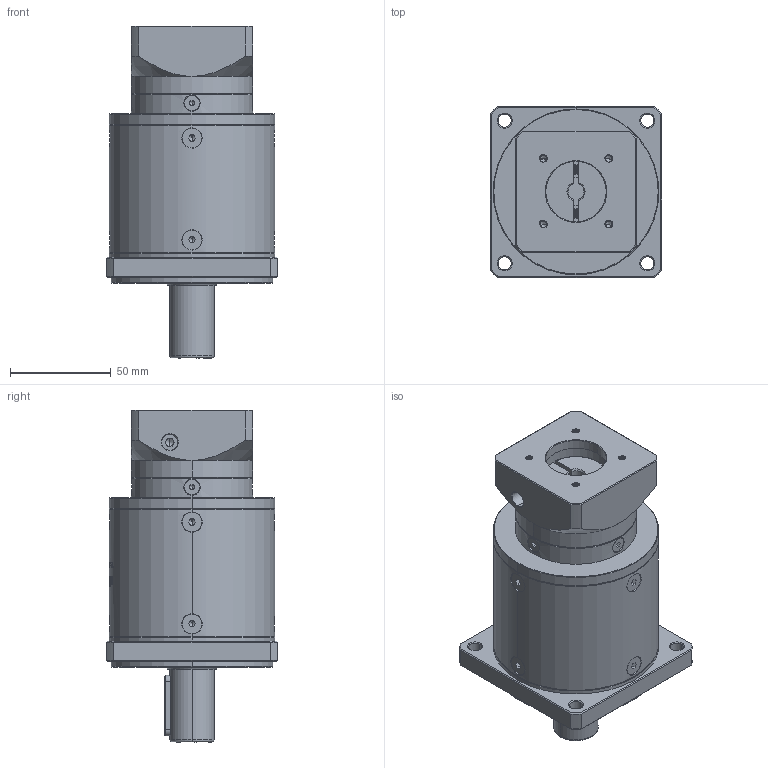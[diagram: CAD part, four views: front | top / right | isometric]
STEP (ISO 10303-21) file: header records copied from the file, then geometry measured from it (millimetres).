
FILE_DESCRIPTION (( 'STEP AP214' ), '1' );
FILE_NAME ('ZF80-D22-L3-8-30-46-M4.step', '2022-05-08T09:28:37', ( '' ), ( 'Microsoft' ), 'SwSTEP 2.0', 'SolidWorks 2016', '' );
FILE_SCHEMA (( 'AUTOMOTIVE_DESIGN' ));
Length unit declared in the file: millimetre
Products named in the file (1): ZF80-D22-L3-8-30-46-M4
Bounding box: 85 x 85 x 164.5 mm (x, y, z)
Volume: 581993.3 mm3; surface area: 73643.1 mm2
Topology: 18 solids, 18 shells, 2002 faces, 5241 edges, 3335 vertices
Faces by surface type: plane 948, cylinder 393, bspline 328, cone 319, torus 14
Entity records: 105502 total; most frequent: CARTESIAN_POINT 37616, ORIENTED_EDGE 10406, DIRECTION 8309, EDGE_CURVE 5203, VERTEX_POINT 3335, LINE 2801, VECTOR 2801, AXIS2_PLACEMENT_3D 2754
